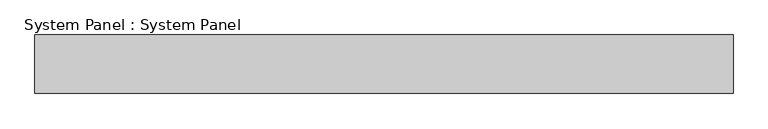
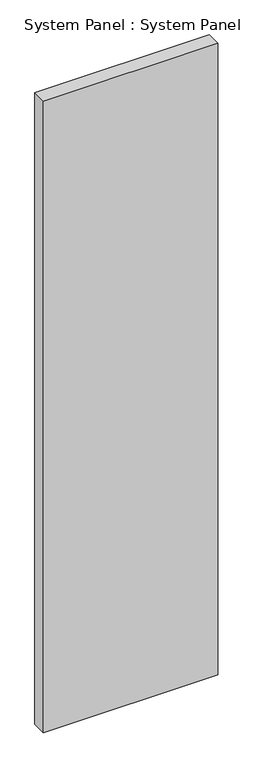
"""IFC4 building model written with IfcOpenShell, lengths in millimetres: plate geometry, System Panel : System Panel."""

from ifc_helpers import new_model, si_unit, origin, origin_with_axes, place, context, project, spatial, polyline, outline, extrude, source, transform, mapped, element, save


def system_panel_system_panel_dbd73a4f(model_context):
    return source(origin(), model_context, "Body", "SweptSolid", [
        extrude(outline(polyline([(608.5596948, -50.8), (-608.5596948, -50.8), (-608.5596948, 50.8), (608.5596948, 50.8), (608.5596948, -50.8)])), origin_with_axes(), (0.0, 0.0, 1.0), 4660.9),
    ])


if __name__ == "__main__":
    model = new_model("IFC4")
    model_context = context("Model", 3, world=origin())
    ifc_project = project(units=[si_unit("LENGTHUNIT", "METRE", prefix="MILLI")], contexts=[model_context])
    site = spatial("IfcSite", under=ifc_project)
    building = spatial("IfcBuilding", under=site)
    placement = place(None, origin())
    system_panel_system_panel_shape = system_panel_system_panel_dbd73a4f(model_context)
    element("IfcPlate", 1, ObjectType="System Panel : System Panel", at=placement, inside=building, context=model_context, shape_type="MappedRepresentation", body=[
        mapped(system_panel_system_panel_shape, transform((0.0, 0.0, 0.0), x_axis=(1.0, 0.0, 0.0), y_axis=(0.0, 1.0, 0.0), z_axis=(0.0, 0.0, 1.0))),
    ])
    save(model, "model.ifc")
